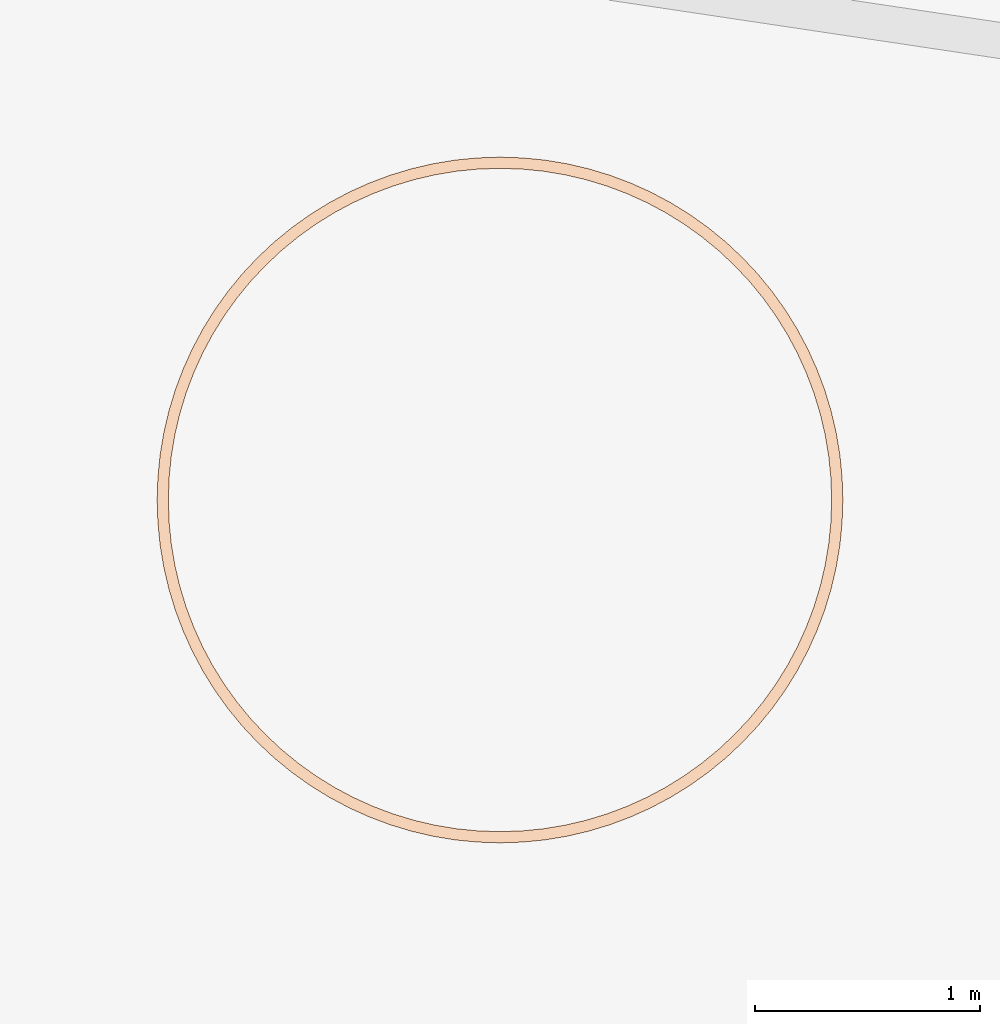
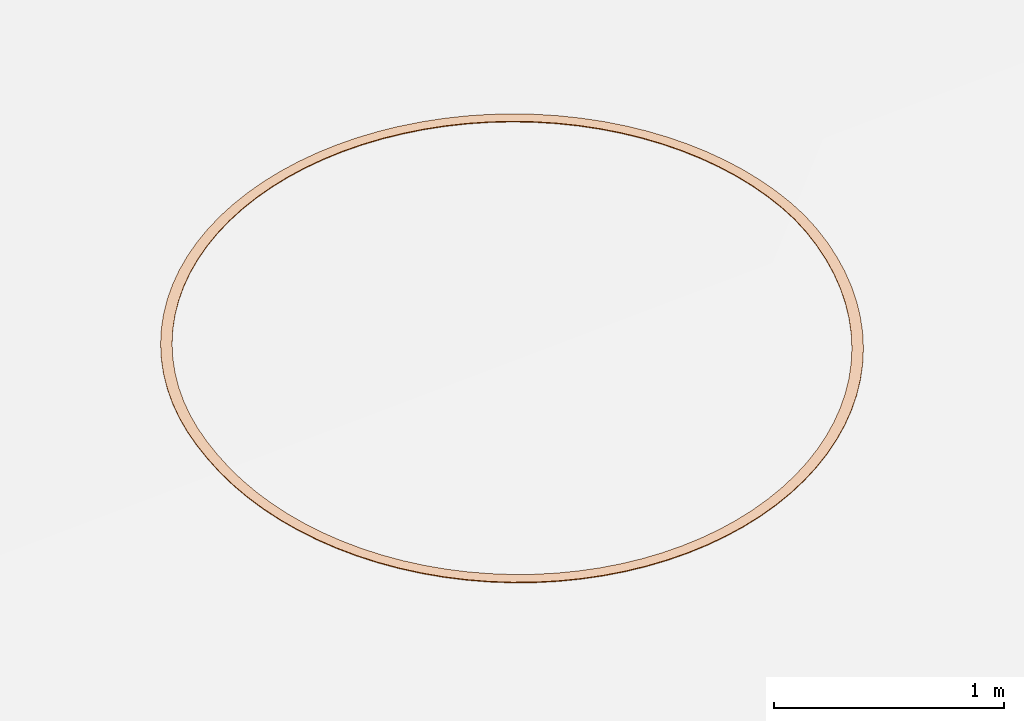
# Not in any storey, part 61 of 72: 1 geographic element.
"""IFC4 model written with IfcOpenShell, lengths in metres."""

from ifc_helpers import new_model, si_unit, direction, frame, origin_with_axes, place, context, subcontext, project, spatial, polygons, material, element, save


model = new_model("IFC4")

# Units and contexts
model_context = context("Model", 3, precision=1e-05, world=origin_with_axes(), true_north=direction((0.0, 1.0)))
body_context = subcontext(model_context, "Body", "Model", "MODEL_VIEW")
ifc_project = project(units=[si_unit("VOLUMEUNIT", "CUBIC_METRE"), si_unit("LENGTHUNIT", "METRE"), si_unit("AREAUNIT", "SQUARE_METRE")], contexts=[model_context])

# Site
site_placement = place(None, origin_with_axes())
site = spatial("IfcSite", under=ifc_project, at=site_placement, Name="Lares · Rua das Mercês · artigo 4771")

# Geographic element
ifc_material = material(Name="Marcação de plantação · linha no terreno", Category="stone")
geographic_element_placement = place(site_placement, frame((0.0, 0.0, 0.0), z_axis=(0.0, 0.0, 1.0), x_axis=(1.0, -1.03767253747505e-17, 0.0)))
element("IfcGeographicElement", 1, at=geographic_element_placement, inside=site, material=ifc_material, Name="Marcação no solo · árvore indicativa 03", ObjectType="Marcação no solo · árvore indicativa 03", PredefinedType="USERDEFINED", context=body_context, shape_type="Tessellation", body=[
    polygons([(18.7030005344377, 4.31149244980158, 12.9004052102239), (18.7030005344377, 4.31149244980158, 12.9044052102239), (18.7530005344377, 4.31149244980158, 12.9029066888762), (18.7530005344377, 4.31149244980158, 12.9069066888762), (18.6998424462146, 4.40796206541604, 12.9111718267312), (18.6998424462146, 4.40796206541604, 12.9151718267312), (18.7497353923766, 4.41123222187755, 12.9139607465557), (18.7497353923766, 4.41123222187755, 12.9179607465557), (18.6903817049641, 4.50401858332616, 12.9184730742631), (18.6903817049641, 4.50401858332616, 12.9224730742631), (18.7399539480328, 4.51054489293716, 12.9215094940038), (18.7399539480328, 4.51054489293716, 12.9255094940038), (18.6746588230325, 4.59925067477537, 12.925390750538), (18.6746588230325, 4.59925067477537, 12.929390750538), (18.7236980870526, 4.60900519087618, 12.9286616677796), (18.7236980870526, 4.60900519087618, 12.9326616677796), (18.6527411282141, 4.6932505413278, 12.9318952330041), (18.6527411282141, 4.6932505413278, 12.9358952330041), (18.7010374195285, 4.70619149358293, 12.9353866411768), (18.7010374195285, 4.70619149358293, 12.9393866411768), (18.624722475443, 4.78561566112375, 12.937958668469), (18.624722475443, 4.78561566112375, 12.941958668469), (18.6720689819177, 4.8016876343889, 12.9416556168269), (18.6720689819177, 4.8016876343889, 12.9456556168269), (18.5907228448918, 4.87595051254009, 12.943555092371), (18.5907228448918, 4.87595051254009, 12.947555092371), (18.6369168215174, 4.89508468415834, 12.9474417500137), (18.6369168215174, 4.89508468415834, 12.9514417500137), (18.5508878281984, 4.96386826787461, 12.9486605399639), (18.5508878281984, 4.96386826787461, 12.9526605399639), (18.595731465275, 4.98598270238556, 12.9527202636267), (18.595731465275, 4.98598270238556, 12.9567202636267), (18.5053880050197, 5.04899244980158, 12.9532531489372), (18.5053880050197, 5.04899244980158, 12.9572531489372), (18.548689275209, 5.07399244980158, 12.9574685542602), (18.548689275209, 5.07399244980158, 12.9614685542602), (18.454418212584, 5.1309585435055, 12.9573132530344), (18.454418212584, 5.1309585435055, 12.9613132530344), (18.4959916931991, 5.15873705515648, 12.9616662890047), (18.4959916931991, 5.15873705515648, 12.9656662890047), (18.3981967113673, 5.20941555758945, 12.9608234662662), (18.3981967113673, 5.20941555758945, 12.9648234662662), (18.4378643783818, 5.23985362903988, 12.9652954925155), (18.4378643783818, 5.23985362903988, 12.9692954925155), (18.3369642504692, 5.28402752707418, 12.9637687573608), (18.3369642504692, 5.28402752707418, 12.9677687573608), (18.3745562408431, 5.31699481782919, 12.9683406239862), (18.3745562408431, 5.31699481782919, 12.9723406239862), (18.2709830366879, 5.35447495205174, 12.9661365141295), (18.2709830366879, 5.35447495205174, 12.9701365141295), (18.3063383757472, 5.38983029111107, 12.9707886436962), (18.3063383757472, 5.38983029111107, 12.9747886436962), (18.2005356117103, 5.42045616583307, 12.9679165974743), (18.2005356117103, 5.42045616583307, 12.9719165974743), (18.2335029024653, 5.45804815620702, 12.9726290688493), (18.2335029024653, 5.45804815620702, 12.9766290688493), (18.1259236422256, 5.48168862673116, 12.969101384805), (18.1259236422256, 5.48168862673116, 12.973101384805), (18.156361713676, 5.52135629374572, 12.9738540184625), (18.156361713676, 5.52135629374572, 12.9778540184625), (18.0474666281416, 5.53791012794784, 12.9696858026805), (18.0474666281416, 5.53791012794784, 12.9736858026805), (18.0752451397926, 5.57948360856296, 12.9744582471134), (18.0752451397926, 5.57948360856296, 12.9784582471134), (17.9655005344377, 5.58887992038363, 12.9696673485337), (17.9655005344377, 5.58887992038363, 12.9736673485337), (17.9905005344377, 5.63218119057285, 12.9744391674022), (17.9905005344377, 5.63218119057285, 12.9784391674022), (17.8803763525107, 5.6343797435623, 12.9690461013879), (17.8803763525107, 5.6343797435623, 12.9730461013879), (17.9024907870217, 5.67922338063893, 12.9737968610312), (17.9024907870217, 5.67922338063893, 12.9777968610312), (17.7924585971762, 5.67421476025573, 12.967824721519), (17.7924585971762, 5.67421476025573, 12.971824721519), (17.8115927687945, 5.7204087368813, 12.9725340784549), (17.8115927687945, 5.7204087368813, 12.9765340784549), (17.7021237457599, 5.70821439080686, 12.966008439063), (17.7021237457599, 5.70821439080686, 12.970008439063), (17.718195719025, 5.75556089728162, 12.9706562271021), (17.718195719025, 5.75556089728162, 12.9746562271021), (17.6097586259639, 5.73623304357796, 12.9636050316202), (17.6097586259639, 5.73623304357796, 12.9676050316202), (17.622699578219, 5.78452933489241, 12.9681713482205), (17.622699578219, 5.78452933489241, 12.9721713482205), (17.5157587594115, 5.75815073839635, 12.9606247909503), (17.5157587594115, 5.75815073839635, 12.9646247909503), (17.5255132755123, 5.80719000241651, 12.9650900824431), (17.5255132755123, 5.80719000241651, 12.9690900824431), (17.4205266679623, 5.77387362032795, 12.9570804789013), (17.4205266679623, 5.77387362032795, 12.9610804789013), (17.4270529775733, 5.82344586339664, 12.961425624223), (17.4270529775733, 5.82344586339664, 12.965425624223), (17.3244701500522, 5.78333436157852, 12.9529872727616), (17.3244701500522, 5.78333436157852, 12.9569872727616), (17.3277403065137, 5.83322730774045, 12.9571936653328), (17.3277403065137, 5.83322730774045, 12.9611936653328), (17.2280005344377, 5.78649244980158, 12.9483627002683), (17.2280005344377, 5.78649244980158, 12.9523627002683), (17.2280005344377, 5.83649244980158, 12.9524123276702), (17.2280005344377, 5.83649244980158, 12.9564123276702), (17.1315309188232, 5.78333436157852, 12.9432265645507), (17.1315309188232, 5.78333436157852, 12.9472265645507), (17.1282607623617, 5.83322730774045, 12.9471020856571), (17.1282607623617, 5.83322730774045, 12.9511020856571), (17.0354744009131, 5.77387362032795, 12.9376008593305), (17.0354744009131, 5.77387362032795, 12.9416008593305), (17.0289480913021, 5.82344586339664, 12.9412856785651), (17.0289480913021, 5.82344586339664, 12.9452856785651), (16.9402423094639, 5.75815073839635, 12.9315096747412), (16.9402423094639, 5.75815073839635, 12.9355096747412), (16.9304877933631, 5.80719000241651, 12.9349880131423), (16.9304877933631, 5.80719000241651, 12.9389880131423), (16.8462424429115, 5.73623304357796, 12.9249790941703), (16.8462424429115, 5.73623304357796, 12.9289790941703), (16.8333014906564, 5.78452933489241, 12.9282360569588), (16.8333014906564, 5.78452933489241, 12.9322360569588), (16.7538773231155, 5.70821439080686, 12.9180370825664), (16.7538773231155, 5.70821439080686, 12.9220370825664), (16.7378053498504, 5.75556089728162, 12.9210587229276), (16.7378053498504, 5.75556089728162, 12.9250587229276), (16.6635424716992, 5.67421476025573, 12.9107133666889), (16.6635424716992, 5.67421476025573, 12.9147133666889), (16.6444083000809, 5.7204087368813, 12.913486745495), (16.6444083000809, 5.7204087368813, 12.917486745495), (16.5756247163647, 5.6343797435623, 12.9030393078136), (16.5756247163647, 5.6343797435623, 12.9070393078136), (16.5535102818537, 5.67922338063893, 12.9055525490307), (16.5535102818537, 5.67922338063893, 12.9095525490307), (16.4905005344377, 5.58887992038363, 12.8950477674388), (16.4905005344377, 5.58887992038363, 12.8990477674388), (16.4655005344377, 5.63218119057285, 12.8972901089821), (16.4655005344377, 5.63218119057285, 12.9012901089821), (16.4085344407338, 5.53791012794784, 12.8867729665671), (16.4085344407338, 5.53791012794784, 12.8907729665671), (16.3807559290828, 5.57948360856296, 12.888734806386), (16.3807559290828, 5.57948360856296, 12.892734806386), (16.3300774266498, 5.48168862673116, 12.8782503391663), (16.3300774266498, 5.48168862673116, 12.8822503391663), (16.2996393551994, 5.52135629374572, 12.8799232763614), (16.2996393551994, 5.52135629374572, 12.8839232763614), (16.2554654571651, 5.42045616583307, 12.8695163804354), (16.2554654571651, 5.42045616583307, 12.8735163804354), (16.2224981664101, 5.45804815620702, 12.8708932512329), (16.2224981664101, 5.45804815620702, 12.8748932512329), (16.1850180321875, 5.35447495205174, 12.8606084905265), (16.1850180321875, 5.35447495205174, 12.8646084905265), (16.1496626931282, 5.38983029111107, 12.8616833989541), (16.1496626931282, 5.38983029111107, 12.8656833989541), (16.1190368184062, 5.28402752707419, 12.8515648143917), (16.1190368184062, 5.28402752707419, 12.8555648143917), (16.0814448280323, 5.31699481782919, 12.8523331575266), (16.0814448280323, 5.31699481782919, 12.8563331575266), (16.0578043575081, 5.20941555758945, 12.8424240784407), (16.0578043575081, 5.20941555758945, 12.8464240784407), (16.0181366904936, 5.23985362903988, 12.8428825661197), (16.0181366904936, 5.23985362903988, 12.8468825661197), (16.0015828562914, 5.1309585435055, 12.8332254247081), (16.0015828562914, 5.1309585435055, 12.8372254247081), (15.9600093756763, 5.15873705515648, 12.8333720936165), (15.9600093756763, 5.15873705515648, 12.8373720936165), (15.9506130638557, 5.04899244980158, 12.8240082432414), (15.9506130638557, 5.04899244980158, 12.8280082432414), (15.9073117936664, 5.07399244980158, 12.8238424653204), (15.9073117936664, 5.07399244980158, 12.8278424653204), (15.905113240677, 4.96386826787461, 12.8148120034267), (15.905113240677, 4.96386826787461, 12.8188120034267), (15.8602696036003, 4.98598270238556, 12.8143344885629), (15.8602696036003, 4.98598270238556, 12.8183344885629), (15.8652782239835, 4.87595051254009, 12.8056760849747), (15.8652782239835, 4.87595051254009, 12.8096760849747), (15.819084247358, 4.89508468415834, 12.80488887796), (15.819084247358, 4.89508468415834, 12.80888887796), (15.8312785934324, 4.78561566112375, 12.7966396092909), (15.8312785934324, 4.78561566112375, 12.8006396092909), (15.7839320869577, 4.8016876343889, 12.7955460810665), (15.7839320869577, 4.8016876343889, 12.7995460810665), (15.8032599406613, 4.6932505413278, 12.7877412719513), (15.8032599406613, 4.6932505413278, 12.7917412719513), (15.7549636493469, 4.70619149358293, 12.786346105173), (15.7549636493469, 4.70619149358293, 12.790346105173), (15.7813422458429, 4.59925067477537, 12.7790191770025), (15.7813422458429, 4.59925067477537, 12.7830191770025), (15.7323029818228, 4.60900519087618, 12.7773283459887), (15.7323029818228, 4.60900519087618, 12.7813283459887), (15.7656193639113, 4.50401858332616, 12.7705106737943), (15.7656193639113, 4.50401858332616, 12.7745106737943), (15.7160471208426, 4.51054489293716, 12.7685314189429), (15.7160471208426, 4.51054489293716, 12.7725314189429), (15.7561586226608, 4.40796206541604, 12.7622521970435), (15.7561586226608, 4.40796206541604, 12.7662521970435), (15.7062656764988, 4.41123222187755, 12.7599929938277), (15.7062656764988, 4.41123222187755, 12.7639929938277), (15.7530005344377, 4.31149244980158, 12.752817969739), (15.7530005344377, 4.31149244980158, 12.756817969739), (15.7030005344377, 4.31149244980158, 12.7503164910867), (15.7030005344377, 4.31149244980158, 12.7543164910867), (15.7561586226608, 4.21502283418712, 12.7412923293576), (15.7561586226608, 4.21502283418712, 12.7452923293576), (15.7062656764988, 4.21175267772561, 12.7384001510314), (15.7062656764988, 4.21175267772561, 12.7424001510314), (15.7656193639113, 4.11896631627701, 12.7301320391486), (15.7656193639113, 4.11896631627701, 12.7341320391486), (15.7160471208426, 4.112440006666, 12.7268615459), (15.7160471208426, 4.112440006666, 12.7308615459), (15.7813422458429, 4.02373422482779, 12.7193848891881), (15.7813422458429, 4.02373422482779, 12.7233848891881), (15.7323029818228, 4.01397970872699, 12.7157500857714), (15.7323029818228, 4.01397970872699, 12.7197500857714), (15.8032599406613, 3.92973435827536, 12.7090969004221), (15.8032599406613, 3.92973435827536, 12.7130969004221), (15.7549636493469, 3.91679340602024, 12.7051133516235), (15.7549636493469, 3.91679340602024, 12.7091133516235), (15.8312785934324, 3.83736923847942, 12.699312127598), (15.8312785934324, 3.83736923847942, 12.703312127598), (15.7839320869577, 3.82129726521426, 12.694996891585), (15.7839320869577, 3.82129726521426, 12.698996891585), (15.8652782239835, 3.74703438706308, 12.6900724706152), (15.8652782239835, 3.74703438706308, 12.6940724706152), (15.819084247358, 3.72790021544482, 12.6854440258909), (15.819084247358, 3.72790021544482, 12.6894440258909), (15.905113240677, 3.65911663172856, 12.6814174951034), (15.905113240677, 3.65911663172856, 12.6854174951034), (15.8602696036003, 3.63700219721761, 12.6764956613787), (15.8602696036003, 3.63700219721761, 12.6804956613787), (15.9506130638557, 3.57399244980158, 12.6733842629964), (15.9506130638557, 3.57399244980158, 12.6773842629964), (15.9073117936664, 3.54899244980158, 12.668190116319), (15.9073117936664, 3.54899244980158, 12.672190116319), (16.0015828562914, 3.49202635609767, 12.6660071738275), (16.0015828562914, 3.49202635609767, 12.6700071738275), (15.9600093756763, 3.46424784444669, 12.6605629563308), (15.9600093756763, 3.46424784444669, 12.6645629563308), (16.0578043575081, 3.41356934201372, 12.659317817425), (16.0578043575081, 3.41356934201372, 12.663317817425), (16.0181366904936, 3.38313127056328, 12.6536468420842), (16.0181366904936, 3.38313127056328, 12.6576468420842), (16.1190368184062, 3.33895737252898, 12.65334483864), (16.1190368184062, 3.33895737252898, 12.65734483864), (16.0814448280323, 3.30599008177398, 12.647471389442), (16.0814448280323, 3.30599008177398, 12.651471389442), (16.1850180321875, 3.26850994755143, 12.6481138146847), (16.1850180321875, 3.26850994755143, 12.6521138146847), (16.1496626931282, 3.2331546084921, 12.6420630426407), (16.1496626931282, 3.2331546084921, 12.6460630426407), (16.2554654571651, 3.20252873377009, 12.6436471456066), (16.2554654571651, 3.20252873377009, 12.6476471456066), (16.2224981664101, 3.16493674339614, 12.6374449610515), (16.2224981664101, 3.16493674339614, 12.6414449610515), (16.3300774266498, 3.14129627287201, 12.6399639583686), (16.3300774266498, 3.14129627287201, 12.6439639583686), (16.2996393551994, 3.10162860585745, 12.6336369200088), (16.2996393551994, 3.10162860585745, 12.6376369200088), (16.4085344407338, 3.08507477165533, 12.6370800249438), (16.4085344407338, 3.08507477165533, 12.6410800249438), (16.3807559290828, 3.0435012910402, 12.6306552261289), (16.3807559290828, 3.0435012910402, 12.6346552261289), (16.4905005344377, 3.03410497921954, 12.6350076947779), (16.4905005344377, 3.03410497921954, 12.6390076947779), (16.4655005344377, 2.99080370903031, 12.6285126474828), (16.4655005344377, 2.99080370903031, 12.6325126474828), (16.5756247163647, 2.98860515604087, 12.6337558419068), (16.5756247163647, 2.98860515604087, 12.6377558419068), (16.5535102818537, 2.94376151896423, 12.6272183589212), (16.5535102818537, 2.94376151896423, 12.6312183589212), (16.6635424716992, 2.94877013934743, 12.6333298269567), (16.6635424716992, 2.94877013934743, 12.6373298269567), (16.6444083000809, 2.90257616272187, 12.6267779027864), (16.6444083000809, 2.90257616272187, 12.6307779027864), (16.7538773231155, 2.9147705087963, 12.6337314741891), (16.7538773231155, 2.9147705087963, 12.6377314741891), (16.7378053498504, 2.86742400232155, 12.6271931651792), (16.7378053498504, 2.86742400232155, 12.6311931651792), (16.8462424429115, 2.88675185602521, 12.6349590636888), (16.8462424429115, 2.88675185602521, 12.6389590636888), (16.8333014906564, 2.83845556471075, 12.6284623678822), (16.8333014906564, 2.83845556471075, 12.6324623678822), (16.9402423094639, 2.86483416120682, 12.6370073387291), (16.9402423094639, 2.86483416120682, 12.6410073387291), (16.9304877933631, 2.81579489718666, 12.6305800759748), (16.9304877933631, 2.81579489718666, 12.6345800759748), (17.0354744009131, 2.84911127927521, 12.6398675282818), (17.0354744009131, 2.84911127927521, 12.6438675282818), (17.0289480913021, 2.79953903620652, 12.6335372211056), (17.0289480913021, 2.79953903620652, 12.6375372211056), (17.1315309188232, 2.83965053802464, 12.6435273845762), (17.1315309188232, 2.83965053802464, 12.6475273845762), (17.1282607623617, 2.78975759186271, 12.6373211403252), (17.1282607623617, 2.78975759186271, 12.6413211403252), (17.2280005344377, 2.83649244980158, 12.6479712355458), (17.2280005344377, 2.83649244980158, 12.6519712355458), (17.2280005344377, 2.78649244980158, 12.6419156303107), (17.2280005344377, 2.78649244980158, 12.6459156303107), (17.3244701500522, 2.83965053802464, 12.6531800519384), (17.3244701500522, 2.83965053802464, 12.6571800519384), (17.3277403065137, 2.78975759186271, 12.6473010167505), (17.3277403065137, 2.78975759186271, 12.6513010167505), (17.4205266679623, 2.84911127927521, 12.6591315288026), (17.4205266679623, 2.84911127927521, 12.6631315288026), (17.4270529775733, 2.79953903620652, 12.6534542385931), (17.4270529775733, 2.79953903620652, 12.6574542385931), (17.5157587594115, 2.86483416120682, 12.6658001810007), (17.5157587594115, 2.86483416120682, 12.6698001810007), (17.5255132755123, 2.81579489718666, 12.660348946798), (17.5255132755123, 2.81579489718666, 12.664348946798), (17.6097586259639, 2.88675185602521, 12.6731574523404), (17.6097586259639, 2.88675185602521, 12.6771574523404), (17.622699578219, 2.83845556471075, 12.6679556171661), (17.622699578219, 2.83845556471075, 12.6719556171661), (17.7021237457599, 2.9147705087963, 12.6811718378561), (17.7021237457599, 2.9147705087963, 12.6851718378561), (17.718195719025, 2.86742400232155, 12.6762416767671), (17.718195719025, 2.86742400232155, 12.6802416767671), (17.7924585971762, 2.94877013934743, 12.6898090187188), (17.7924585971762, 2.94877013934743, 12.6938090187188), (17.8115927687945, 2.90257616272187, 12.6851716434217), (17.8115927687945, 2.90257616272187, 12.6891716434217), (17.8803763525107, 2.98860515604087, 12.6990320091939), (17.8803763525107, 2.98860515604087, 12.7030320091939), (17.9024907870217, 2.94376151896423, 12.6947072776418), (17.9024907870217, 2.94376151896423, 12.6987072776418), (17.9655005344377, 3.03410497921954, 12.7088013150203), (17.9655005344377, 3.03410497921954, 12.7128013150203), (17.9905005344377, 2.99080370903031, 12.7048077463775), (17.9905005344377, 2.99080370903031, 12.7088077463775), (18.0474666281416, 3.08507477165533, 12.7190751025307), (18.0474666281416, 3.08507477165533, 12.7230751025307), (18.0752451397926, 3.0435012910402, 12.7154297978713), (18.0752451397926, 3.0435012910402, 12.7194297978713), (18.1259236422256, 3.14129627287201, 12.7298093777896), (18.1259236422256, 3.14129627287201, 12.7338093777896), (18.156361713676, 3.10162860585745, 12.7265279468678), (18.156361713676, 3.10162860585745, 12.7305279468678), (18.2005356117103, 3.20252873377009, 12.7409581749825), (18.2005356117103, 3.20252873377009, 12.7449581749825), (18.2335029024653, 3.16493674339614, 12.7380546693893), (18.2335029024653, 3.16493674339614, 12.7420546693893), (18.2709830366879, 3.26850994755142, 12.7524737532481), (18.2709830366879, 3.26850994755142, 12.7564737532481), (18.3063383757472, 3.2331546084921, 12.7499606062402), (18.3063383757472, 3.2331546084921, 12.7539606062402), (18.3369642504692, 3.33895737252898, 12.7643068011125), (18.3369642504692, 3.33895737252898, 12.7683068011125), (18.3745562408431, 3.30599008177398, 12.7621947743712), (18.3745562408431, 3.30599008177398, 12.7661947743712), (18.3981967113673, 3.41356934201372, 12.7764066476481), (18.3981967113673, 3.41356934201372, 12.7804066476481), (18.4378643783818, 3.38313127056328, 12.7747047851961), (18.4378643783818, 3.38313127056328, 12.7787047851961), (18.454418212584, 3.49202635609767, 12.7887214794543), (18.454418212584, 3.49202635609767, 12.7927214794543), (18.4959916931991, 3.46424784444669, 12.7874370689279), (18.4959916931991, 3.46424784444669, 12.7914370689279), (18.5053880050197, 3.57399244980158, 12.8011985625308), (18.5053880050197, 3.57399244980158, 12.8051985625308), (18.548689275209, 3.54899244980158, 12.8003371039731), (18.548689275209, 3.54899244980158, 12.8043371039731), (18.5508878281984, 3.65911663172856, 12.8137844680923), (18.5508878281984, 3.65911663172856, 12.8177844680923), (18.595731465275, 3.63700219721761, 12.8133496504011), (18.595731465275, 3.63700219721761, 12.8173496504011), (18.5907228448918, 3.74703438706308, 12.826425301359), (18.5907228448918, 3.74703438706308, 12.830425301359), (18.6369168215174, 3.72790021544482, 12.8264189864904), (18.6369168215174, 3.72790021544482, 12.8304189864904), (18.624722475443, 3.83736923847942, 12.8390669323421), (18.624722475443, 3.83736923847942, 12.8430669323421), (18.6720689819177, 3.82129726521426, 12.8394891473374), (18.6720689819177, 3.82129726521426, 12.8434891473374), (18.6527411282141, 3.92973435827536, 12.8516552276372), (18.6527411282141, 3.92973435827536, 12.8556552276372), (18.7010374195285, 3.91679340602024, 12.8525041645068), (18.7010374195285, 3.91679340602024, 12.8565041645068), (18.6746588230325, 4.02373422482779, 12.864136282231), (18.6746588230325, 4.02373422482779, 12.868136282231), (18.7236980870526, 4.01397970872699, 12.865408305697), (18.7236980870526, 4.01397970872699, 12.869408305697), (18.6903817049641, 4.11896631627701, 12.8764566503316), (18.6903817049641, 4.11896631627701, 12.8804566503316), (18.7399539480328, 4.112440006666, 12.8781463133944), (18.7399539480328, 4.112440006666, 12.8821463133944), (18.6998424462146, 4.21502283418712, 12.8885635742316), (18.6998424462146, 4.21502283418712, 12.8925635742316), (18.7497353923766, 4.21175267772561, 12.8906636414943), (18.7497353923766, 4.21175267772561, 12.8946636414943)], [[[5, 7, 3, 1]], [[4, 8, 6, 2]], [[2, 6, 5, 1]], [[7, 8, 4, 3]], [[9, 11, 7, 5]], [[8, 12, 10, 6]], [[6, 10, 9, 5]], [[11, 12, 8, 7]], [[13, 15, 11, 9]], [[12, 16, 14, 10]], [[10, 14, 13, 9]], [[15, 16, 12, 11]], [[17, 19, 15, 13]], [[16, 20, 18, 14]], [[14, 18, 17, 13]], [[19, 20, 16, 15]], [[21, 23, 19, 17]], [[20, 24, 22, 18]], [[18, 22, 21, 17]], [[23, 24, 20, 19]], [[25, 27, 23, 21]], [[24, 28, 26, 22]], [[22, 26, 25, 21]], [[27, 28, 24, 23]], [[29, 31, 27, 25]], [[28, 32, 30, 26]], [[26, 30, 29, 25]], [[31, 32, 28, 27]], [[33, 35, 31, 29]], [[32, 36, 34, 30]], [[30, 34, 33, 29]], [[35, 36, 32, 31]], [[37, 39, 35, 33]], [[36, 40, 38, 34]], [[34, 38, 37, 33]], [[39, 40, 36, 35]], [[41, 43, 39, 37]], [[40, 44, 42, 38]], [[38, 42, 41, 37]], [[43, 44, 40, 39]], [[45, 47, 43, 41]], [[44, 48, 46, 42]], [[42, 46, 45, 41]], [[47, 48, 44, 43]], [[49, 51, 47, 45]], [[48, 52, 50, 46]], [[46, 50, 49, 45]], [[51, 52, 48, 47]], [[53, 55, 51, 49]], [[52, 56, 54, 50]], [[50, 54, 53, 49]], [[55, 56, 52, 51]], [[57, 59, 55, 53]], [[56, 60, 58, 54]], [[54, 58, 57, 53]], [[59, 60, 56, 55]], [[61, 63, 59, 57]], [[60, 64, 62, 58]], [[58, 62, 61, 57]], [[63, 64, 60, 59]], [[65, 67, 63, 61]], [[64, 68, 66, 62]], [[62, 66, 65, 61]], [[67, 68, 64, 63]], [[69, 71, 67, 65]], [[68, 72, 70, 66]], [[66, 70, 69, 65]], [[71, 72, 68, 67]], [[73, 75, 71, 69]], [[72, 76, 74, 70]], [[70, 74, 73, 69]], [[75, 76, 72, 71]], [[77, 79, 75, 73]], [[76, 80, 78, 74]], [[74, 78, 77, 73]], [[79, 80, 76, 75]], [[81, 83, 79, 77]], [[80, 84, 82, 78]], [[78, 82, 81, 77]], [[83, 84, 80, 79]], [[85, 87, 83, 81]], [[84, 88, 86, 82]], [[82, 86, 85, 81]], [[87, 88, 84, 83]], [[89, 91, 87, 85]], [[88, 92, 90, 86]], [[86, 90, 89, 85]], [[91, 92, 88, 87]], [[93, 95, 91, 89]], [[92, 96, 94, 90]], [[90, 94, 93, 89]], [[95, 96, 92, 91]], [[97, 99, 95, 93]], [[96, 100, 98, 94]], [[94, 98, 97, 93]], [[99, 100, 96, 95]], [[101, 103, 99, 97]], [[100, 104, 102, 98]], [[98, 102, 101, 97]], [[103, 104, 100, 99]], [[105, 107, 103, 101]], [[104, 108, 106, 102]], [[102, 106, 105, 101]], [[107, 108, 104, 103]], [[109, 111, 107, 105]], [[108, 112, 110, 106]], [[106, 110, 109, 105]], [[111, 112, 108, 107]], [[113, 115, 111, 109]], [[112, 116, 114, 110]], [[110, 114, 113, 109]], [[115, 116, 112, 111]], [[117, 119, 115, 113]], [[116, 120, 118, 114]], [[114, 118, 117, 113]], [[119, 120, 116, 115]], [[121, 123, 119, 117]], [[120, 124, 122, 118]], [[118, 122, 121, 117]], [[123, 124, 120, 119]], [[125, 127, 123, 121]], [[124, 128, 126, 122]], [[122, 126, 125, 121]], [[127, 128, 124, 123]], [[129, 131, 127, 125]], [[128, 132, 130, 126]], [[126, 130, 129, 125]], [[131, 132, 128, 127]], [[133, 135, 131, 129]], [[132, 136, 134, 130]], [[130, 134, 133, 129]], [[135, 136, 132, 131]], [[137, 139, 135, 133]], [[136, 140, 138, 134]], [[134, 138, 137, 133]], [[139, 140, 136, 135]], [[141, 143, 139, 137]], [[140, 144, 142, 138]], [[138, 142, 141, 137]], [[143, 144, 140, 139]], [[145, 147, 143, 141]], [[144, 148, 146, 142]], [[142, 146, 145, 141]], [[147, 148, 144, 143]], [[149, 151, 147, 145]], [[148, 152, 150, 146]], [[146, 150, 149, 145]], [[151, 152, 148, 147]], [[153, 155, 151, 149]], [[152, 156, 154, 150]], [[150, 154, 153, 149]], [[155, 156, 152, 151]], [[157, 159, 155, 153]], [[156, 160, 158, 154]], [[154, 158, 157, 153]], [[159, 160, 156, 155]], [[161, 163, 159, 157]], [[160, 164, 162, 158]], [[158, 162, 161, 157]], [[163, 164, 160, 159]], [[165, 167, 163, 161]], [[164, 168, 166, 162]], [[162, 166, 165, 161]], [[167, 168, 164, 163]], [[169, 171, 167, 165]], [[168, 172, 170, 166]], [[166, 170, 169, 165]], [[171, 172, 168, 167]], [[173, 175, 171, 169]], [[172, 176, 174, 170]], [[170, 174, 173, 169]], [[175, 176, 172, 171]], [[177, 179, 175, 173]], [[176, 180, 178, 174]], [[174, 178, 177, 173]], [[179, 180, 176, 175]], [[181, 183, 179, 177]], [[180, 184, 182, 178]], [[178, 182, 181, 177]], [[183, 184, 180, 179]], [[185, 187, 183, 181]], [[184, 188, 186, 182]], [[182, 186, 185, 181]], [[187, 188, 184, 183]], [[189, 191, 187, 185]], [[188, 192, 190, 186]], [[186, 190, 189, 185]], [[191, 192, 188, 187]], [[193, 195, 191, 189]], [[192, 196, 194, 190]], [[190, 194, 193, 189]], [[195, 196, 192, 191]], [[197, 199, 195, 193]], [[196, 200, 198, 194]], [[194, 198, 197, 193]], [[199, 200, 196, 195]], [[201, 203, 199, 197]], [[200, 204, 202, 198]], [[198, 202, 201, 197]], [[203, 204, 200, 199]], [[205, 207, 203, 201]], [[204, 208, 206, 202]], [[202, 206, 205, 201]], [[207, 208, 204, 203]], [[209, 211, 207, 205]], [[208, 212, 210, 206]], [[206, 210, 209, 205]], [[211, 212, 208, 207]], [[213, 215, 211, 209]], [[212, 216, 214, 210]], [[210, 214, 213, 209]], [[215, 216, 212, 211]], [[217, 219, 215, 213]], [[216, 220, 218, 214]], [[214, 218, 217, 213]], [[219, 220, 216, 215]], [[221, 223, 219, 217]], [[220, 224, 222, 218]], [[218, 222, 221, 217]], [[223, 224, 220, 219]], [[225, 227, 223, 221]], [[224, 228, 226, 222]], [[222, 226, 225, 221]], [[227, 228, 224, 223]], [[229, 231, 227, 225]], [[228, 232, 230, 226]], [[226, 230, 229, 225]], [[231, 232, 228, 227]], [[233, 235, 231, 229]], [[232, 236, 234, 230]], [[230, 234, 233, 229]], [[235, 236, 232, 231]], [[237, 239, 235, 233]], [[236, 240, 238, 234]], [[234, 238, 237, 233]], [[239, 240, 236, 235]], [[241, 243, 239, 237]], [[240, 244, 242, 238]], [[238, 242, 241, 237]], [[243, 244, 240, 239]], [[245, 247, 243, 241]], [[244, 248, 246, 242]], [[242, 246, 245, 241]], [[247, 248, 244, 243]], [[249, 251, 247, 245]], [[248, 252, 250, 246]], [[246, 250, 249, 245]], [[251, 252, 248, 247]], [[253, 255, 251, 249]], [[252, 256, 254, 250]], [[250, 254, 253, 249]], [[255, 256, 252, 251]], [[257, 259, 255, 253]], [[256, 260, 258, 254]], [[254, 258, 257, 253]], [[259, 260, 256, 255]], [[261, 263, 259, 257]], [[260, 264, 262, 258]], [[258, 262, 261, 257]], [[263, 264, 260, 259]], [[265, 267, 263, 261]], [[264, 268, 266, 262]], [[262, 266, 265, 261]], [[267, 268, 264, 263]], [[269, 271, 267, 265]], [[268, 272, 270, 266]], [[266, 270, 269, 265]], [[271, 272, 268, 267]], [[273, 275, 271, 269]], [[272, 276, 274, 270]], [[270, 274, 273, 269]], [[275, 276, 272, 271]], [[277, 279, 275, 273]], [[276, 280, 278, 274]], [[274, 278, 277, 273]], [[279, 280, 276, 275]], [[281, 283, 279, 277]], [[280, 284, 282, 278]], [[278, 282, 281, 277]], [[283, 284, 280, 279]], [[285, 287, 283, 281]], [[284, 288, 286, 282]], [[282, 286, 285, 281]], [[287, 288, 284, 283]], [[289, 291, 287, 285]], [[288, 292, 290, 286]], [[286, 290, 289, 285]], [[291, 292, 288, 287]], [[293, 295, 291, 289]], [[292, 296, 294, 290]], [[290, 294, 293, 289]], [[295, 296, 292, 291]], [[297, 299, 295, 293]], [[296, 300, 298, 294]], [[294, 298, 297, 293]], [[299, 300, 296, 295]], [[301, 303, 299, 297]], [[300, 304, 302, 298]], [[298, 302, 301, 297]], [[303, 304, 300, 299]], [[305, 307, 303, 301]], [[304, 308, 306, 302]], [[302, 306, 305, 301]], [[307, 308, 304, 303]], [[309, 311, 307, 305]], [[308, 312, 310, 306]], [[306, 310, 309, 305]], [[311, 312, 308, 307]], [[313, 315, 311, 309]], [[312, 316, 314, 310]], [[310, 314, 313, 309]], [[315, 316, 312, 311]], [[317, 319, 315, 313]], [[316, 320, 318, 314]], [[314, 318, 317, 313]], [[319, 320, 316, 315]], [[321, 323, 319, 317]], [[320, 324, 322, 318]], [[318, 322, 321, 317]], [[323, 324, 320, 319]], [[325, 327, 323, 321]], [[324, 328, 326, 322]], [[322, 326, 325, 321]], [[327, 328, 324, 323]], [[329, 331, 327, 325]], [[328, 332, 330, 326]], [[326, 330, 329, 325]], [[331, 332, 328, 327]], [[333, 335, 331, 329]], [[332, 336, 334, 330]], [[330, 334, 333, 329]], [[335, 336, 332, 331]], [[337, 339, 335, 333]], [[336, 340, 338, 334]], [[334, 338, 337, 333]], [[339, 340, 336, 335]], [[341, 343, 339, 337]], [[340, 344, 342, 338]], [[338, 342, 341, 337]], [[343, 344, 340, 339]], [[345, 347, 343, 341]], [[344, 348, 346, 342]], [[342, 346, 345, 341]], [[347, 348, 344, 343]], [[349, 351, 347, 345]], [[348, 352, 350, 346]], [[346, 350, 349, 345]], [[351, 352, 348, 347]], [[353, 355, 351, 349]], [[352, 356, 354, 350]], [[350, 354, 353, 349]], [[355, 356, 352, 351]], [[357, 359, 355, 353]], [[356, 360, 358, 354]], [[354, 358, 357, 353]], [[359, 360, 356, 355]], [[361, 363, 359, 357]], [[360, 364, 362, 358]], [[358, 362, 361, 357]], [[363, 364, 360, 359]], [[365, 367, 363, 361]], [[364, 368, 366, 362]], [[362, 366, 365, 361]], [[367, 368, 364, 363]], [[369, 371, 367, 365]], [[368, 372, 370, 366]], [[366, 370, 369, 365]], [[371, 372, 368, 367]], [[373, 375, 371, 369]], [[372, 376, 374, 370]], [[370, 374, 373, 369]], [[375, 376, 372, 371]], [[377, 379, 375, 373]], [[376, 380, 378, 374]], [[374, 378, 377, 373]], [[379, 380, 376, 375]], [[381, 383, 379, 377]], [[380, 384, 382, 378]], [[378, 382, 381, 377]], [[383, 384, 380, 379]], [[1, 3, 383, 381]], [[384, 4, 2, 382]], [[382, 2, 1, 381]], [[3, 4, 384, 383]]]),
])

save(model, "model.ifc")
